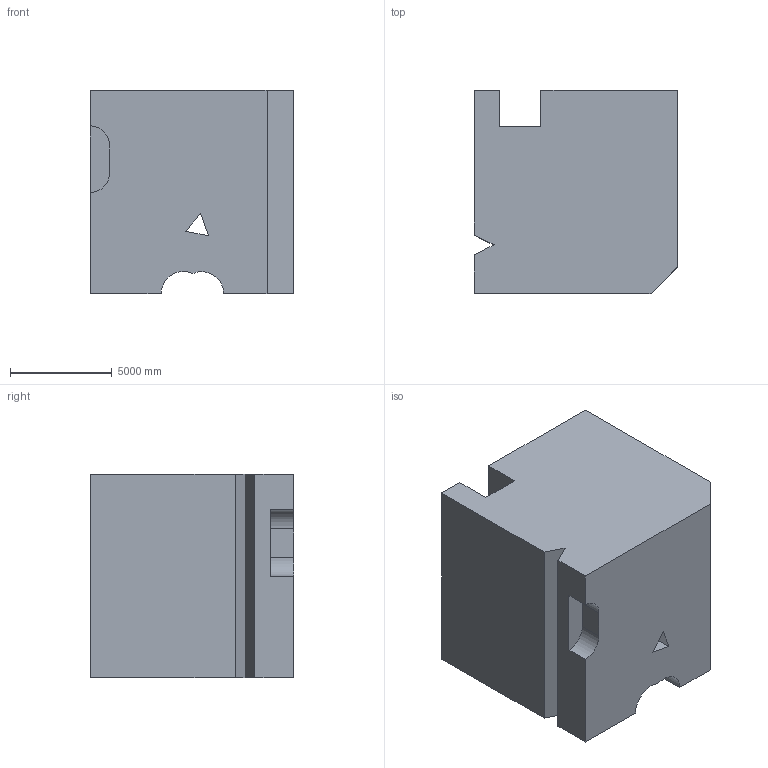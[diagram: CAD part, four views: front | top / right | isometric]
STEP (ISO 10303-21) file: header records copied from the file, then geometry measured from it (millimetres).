
FILE_DESCRIPTION (( 'STEP AP203' ), '1' );
FILE_NAME ('1709.STEP', '2022-08-19T11:56:26', ( 'user' ), ( '' ), 'SwSTEP 2.0', 'SolidWorks 2021', '' );
FILE_SCHEMA (( 'CONFIG_CONTROL_DESIGN' ));
Length unit declared in the file: centimetre
Products named in the file (1): 1709
Bounding box: 10000 x 10000 x 10000 mm (x, y, z)
Volume: 900478674959.6 mm3; surface area: 699021142.9 mm2
Topology: 1 solids, 1 shells, 33 faces, 93 edges, 62 vertices
Faces by surface type: plane 27, cylinder 6
Entity records: 1144 total; most frequent: CARTESIAN_POINT 195, ORIENTED_EDGE 186, DIRECTION 171, EDGE_CURVE 93, VECTOR 79, LINE 79, VERTEX_POINT 62, AXIS2_PLACEMENT_3D 46
